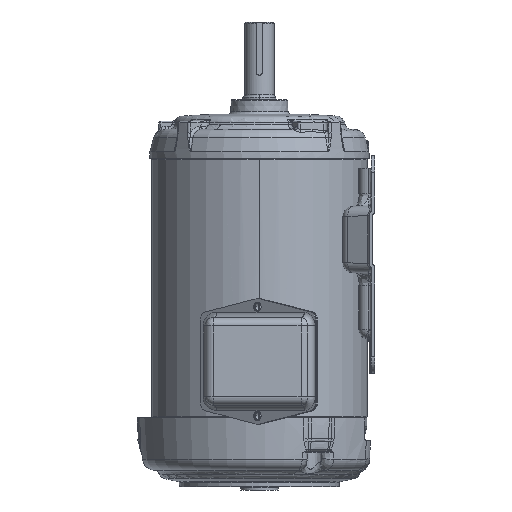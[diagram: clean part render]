
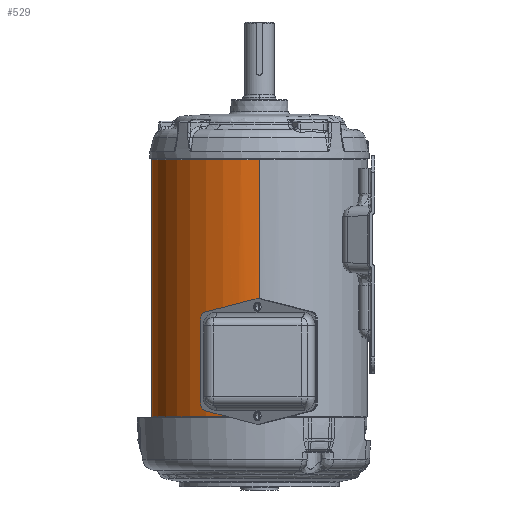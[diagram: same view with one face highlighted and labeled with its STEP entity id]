
A CAD part, left-side view. The second image highlights one B-rep face of the part: STEP entity #529.
In plain terms, the highlighted cylindrical face has radius 81.783 mm (diameter 163.566 mm), a partial arc.
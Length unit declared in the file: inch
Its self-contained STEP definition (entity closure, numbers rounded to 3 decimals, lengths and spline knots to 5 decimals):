
#2=CARTESIAN_POINT('',(-3.1702,0.563,-2.2635));
#3=CARTESIAN_POINT('',(-3.16835,0.57341,-2.2635));
#4=CARTESIAN_POINT('',(-3.16478,0.5929,-2.25999));
#5=CARTESIAN_POINT('',(-3.15962,0.61977,-2.24467));
#6=CARTESIAN_POINT('',(-3.15566,0.63952,-2.22098));
#7=CARTESIAN_POINT('',(-3.15353,0.64988,-2.19247));
#8=CARTESIAN_POINT('',(-3.15351,0.64997,-2.16191));
#9=CARTESIAN_POINT('',(-3.15564,0.63961,-2.13322));
#10=CARTESIAN_POINT('',(-3.15954,0.6202,-2.10968));
#11=CARTESIAN_POINT('',(-3.16476,0.59302,-2.09401));
#12=CARTESIAN_POINT('',(-3.16834,0.57346,-2.0905));
#13=CARTESIAN_POINT('',(-3.1702,0.563,-2.0905));
#15=CARTESIAN_POINT('',(-3.1702,0.563,-2.0905));
#16=CARTESIAN_POINT('',(-3.17204,0.55261,-2.0905));
#17=CARTESIAN_POINT('',(-3.1754,0.53315,-2.09401));
#18=CARTESIAN_POINT('',(-3.17977,0.50633,-2.10925));
#19=CARTESIAN_POINT('',(-3.18284,0.48655,-2.1329));
#20=CARTESIAN_POINT('',(-3.1844,0.47612,-2.16147));
#21=CARTESIAN_POINT('',(-3.18442,0.47603,-2.19216));
#22=CARTESIAN_POINT('',(-3.18285,0.48646,-2.22091));
#23=CARTESIAN_POINT('',(-3.17983,0.50592,-2.24442));
#24=CARTESIAN_POINT('',(-3.17541,0.53305,-2.26001));
#25=CARTESIAN_POINT('',(-3.17205,0.55257,-2.2635));
#26=CARTESIAN_POINT('',(-3.1702,0.563,-2.2635));
#28=DIRECTION('',(0.,0.,1.));
#29=VECTOR('',#28,7.688);
#30=CARTESIAN_POINT('',(3.2198,0.,-3.833));
#31=LINE('',#30,#29);
#32=CARTESIAN_POINT('',(0.,0.,3.855));
#33=DIRECTION('',(0.,0.,1.));
#34=DIRECTION('',(1.,0.,0.));
#35=AXIS2_PLACEMENT_3D('',#32,#33,#34);
#37=CARTESIAN_POINT('',(0.,0.,3.855));
#38=DIRECTION('',(0.,0.,1.));
#39=DIRECTION('',(0.,1.,0.));
#40=AXIS2_PLACEMENT_3D('',#37,#38,#39);
#42=CARTESIAN_POINT('',(0.,0.,-1.767));
#43=DIRECTION('',(0.,0.,1.));
#44=DIRECTION('',(-0.996,0.089,0.));
#45=AXIS2_PLACEMENT_3D('',#42,#43,#44);
#47=CARTESIAN_POINT('',(-3.19359,0.41,-1.892));
#48=CARTESIAN_POINT('',(-3.19359,0.41,-1.88251));
#49=CARTESIAN_POINT('',(-3.19386,0.40789,-1.86405));
#50=CARTESIAN_POINT('',(-3.19504,0.3986,-1.83735));
#51=CARTESIAN_POINT('',(-3.19689,0.38353,-1.81338));
#52=CARTESIAN_POINT('',(-3.19923,0.36356,-1.79342));
#53=CARTESIAN_POINT('',(-3.20187,0.33969,-1.77842));
#54=CARTESIAN_POINT('',(-3.20459,0.31296,-1.7691));
#55=CARTESIAN_POINT('',(-3.20632,0.2945,-1.767));
#56=CARTESIAN_POINT('',(-3.20716,0.285,-1.767));
#58=DIRECTION('',(0.,0.,1.));
#59=VECTOR('',#58,0.95);
#60=CARTESIAN_POINT('',(-3.19359,0.41,-2.842));
#61=LINE('',#60,#59);
#62=CARTESIAN_POINT('',(-3.20716,0.285,-2.967));
#63=CARTESIAN_POINT('',(-3.20632,0.29448,-2.967));
#64=CARTESIAN_POINT('',(-3.2046,0.31291,-2.9649));
#65=CARTESIAN_POINT('',(-3.20188,0.33955,-2.95565));
#66=CARTESIAN_POINT('',(-3.19924,0.36349,-2.94064));
#67=CARTESIAN_POINT('',(-3.1969,0.38347,-2.92069));
#68=CARTESIAN_POINT('',(-3.19505,0.39853,-2.8968));
#69=CARTESIAN_POINT('',(-3.19386,0.40789,-2.87001));
#70=CARTESIAN_POINT('',(-3.19359,0.41,-2.85151));
#71=CARTESIAN_POINT('',(-3.19359,0.41,-2.842));
#73=CARTESIAN_POINT('',(0.,0.,-2.967));
#74=DIRECTION('',(0.,0.,1.));
#75=DIRECTION('',(-0.996,0.089,0.));
#76=AXIS2_PLACEMENT_3D('',#73,#74,#75);
#78=CARTESIAN_POINT('',(0.,0.,-3.833));
#79=DIRECTION('',(0.,0.,1.));
#80=DIRECTION('',(0.,1.,0.));
#81=AXIS2_PLACEMENT_3D('',#78,#79,#80);
#83=CARTESIAN_POINT('',(0.,0.,-3.833));
#84=DIRECTION('',(0.,0.,1.));
#85=DIRECTION('',(1.,0.,0.));
#86=AXIS2_PLACEMENT_3D('',#83,#84,#85);
#230=DIRECTION('',(0.,0.,1.));
#231=VECTOR('',#230,0.866);
#232=CARTESIAN_POINT('',(-3.2198,0.,-3.833));
#233=LINE('',#232,#231);
#270=DIRECTION('',(0.,0.,1.));
#271=VECTOR('',#270,5.622);
#272=CARTESIAN_POINT('',(-3.2198,0.,-1.767));
#273=LINE('',#272,#271);
#418=VERTEX_POINT('',#2);
#419=VERTEX_POINT('',#13);
#420=CARTESIAN_POINT('',(-3.20716,0.285,-1.767));
#421=CARTESIAN_POINT('',(-3.2198,0.,-1.767));
#422=VERTEX_POINT('',#420);
#423=VERTEX_POINT('',#421);
#424=CARTESIAN_POINT('',(-3.20716,0.285,-2.967));
#425=CARTESIAN_POINT('',(-3.2198,0.,-2.967));
#426=VERTEX_POINT('',#424);
#427=VERTEX_POINT('',#425);
#428=VERTEX_POINT('',#71);
#429=CARTESIAN_POINT('',(-3.19359,0.41,-1.892));
#430=VERTEX_POINT('',#429);
#468=CARTESIAN_POINT('',(3.2198,0.,-3.833));
#469=CARTESIAN_POINT('',(3.2198,0.,3.855));
#470=VERTEX_POINT('',#468);
#471=VERTEX_POINT('',#469);
#472=CARTESIAN_POINT('',(-3.2198,0.,-3.833));
#473=VERTEX_POINT('',#472);
#474=CARTESIAN_POINT('',(-3.2198,0.,3.855));
#475=VERTEX_POINT('',#474);
#484=CARTESIAN_POINT('',(0.,3.2198,3.855));
#485=VERTEX_POINT('',#484);
#486=CARTESIAN_POINT('',(0.,3.2198,-3.833));
#487=VERTEX_POINT('',#486);
#492=CARTESIAN_POINT('',(0.,0.,-3.927));
#493=DIRECTION('',(0.,0.,1.));
#494=DIRECTION('',(1.,0.,0.));
#495=AXIS2_PLACEMENT_3D('',#492,#493,#494);
#496=CYLINDRICAL_SURFACE('',#495,3.2198);
#498=ORIENTED_EDGE('',*,*,#497,.T.);
#500=ORIENTED_EDGE('',*,*,#499,.T.);
#502=ORIENTED_EDGE('',*,*,#501,.T.);
#504=ORIENTED_EDGE('',*,*,#503,.F.);
#506=ORIENTED_EDGE('',*,*,#505,.F.);
#508=ORIENTED_EDGE('',*,*,#507,.F.);
#510=ORIENTED_EDGE('',*,*,#509,.F.);
#512=ORIENTED_EDGE('',*,*,#511,.F.);
#514=ORIENTED_EDGE('',*,*,#513,.T.);
#516=ORIENTED_EDGE('',*,*,#515,.F.);
#518=ORIENTED_EDGE('',*,*,#517,.F.);
#520=ORIENTED_EDGE('',*,*,#519,.F.);
#521=EDGE_LOOP('',(#498,#500,#502,#504,#506,#508,#510,#512,#514,#516,#518,
#520));
#522=FACE_OUTER_BOUND('',#521,.F.);
#524=ORIENTED_EDGE('',*,*,#523,.F.);
#526=ORIENTED_EDGE('',*,*,#525,.F.);
#527=EDGE_LOOP('',(#524,#526));
#528=FACE_BOUND('',#527,.F.);
#529=ADVANCED_FACE('',(#522,#528),#496,.T.);
#14=B_SPLINE_CURVE_WITH_KNOTS('',3,(#2,#3,#4,#5,#6,#7,#8,#9,#10,#11,#12,#13),
.UNSPECIFIED.,.F.,.F.,(4,1,1,1,1,1,1,1,1,4),(0.,0.11111,
0.22222,0.33333,0.44444,0.55556,
0.66667,0.77778,0.88889,1.),.UNSPECIFIED.);
#27=B_SPLINE_CURVE_WITH_KNOTS('',3,(#15,#16,#17,#18,#19,#20,#21,#22,#23,#24,#25,
#26),.UNSPECIFIED.,.F.,.F.,(4,1,1,1,1,1,1,1,1,4),(0.,0.11111,
0.22222,0.33333,0.44444,0.55556,
0.66667,0.77778,0.88889,1.),.UNSPECIFIED.);
#36=CIRCLE('',#35,3.2198);
#41=CIRCLE('',#40,3.2198);
#46=CIRCLE('',#45,3.2198);
#57=B_SPLINE_CURVE_WITH_KNOTS('',3,(#47,#48,#49,#50,#51,#52,#53,#54,#55,#56),
.UNSPECIFIED.,.F.,.F.,(4,1,1,1,1,1,1,4),(0.,0.14286,
0.28571,0.42857,0.57143,0.71429,
0.85714,1.),.UNSPECIFIED.);
#72=B_SPLINE_CURVE_WITH_KNOTS('',3,(#62,#63,#64,#65,#66,#67,#68,#69,#70,#71),
.UNSPECIFIED.,.F.,.F.,(4,1,1,1,1,1,1,4),(0.,0.14286,
0.28571,0.42857,0.57143,0.71429,
0.85714,1.),.UNSPECIFIED.);
#77=CIRCLE('',#76,3.2198);
#82=CIRCLE('',#81,3.2198);
#87=CIRCLE('',#86,3.2198);
#497=EDGE_CURVE('',#470,#471,#31,.T.);
#499=EDGE_CURVE('',#471,#485,#36,.T.);
#501=EDGE_CURVE('',#485,#475,#41,.T.);
#503=EDGE_CURVE('',#423,#475,#273,.T.);
#505=EDGE_CURVE('',#422,#423,#46,.T.);
#507=EDGE_CURVE('',#430,#422,#57,.T.);
#509=EDGE_CURVE('',#428,#430,#61,.T.);
#511=EDGE_CURVE('',#426,#428,#72,.T.);
#513=EDGE_CURVE('',#426,#427,#77,.T.);
#515=EDGE_CURVE('',#473,#427,#233,.T.);
#517=EDGE_CURVE('',#487,#473,#82,.T.);
#519=EDGE_CURVE('',#470,#487,#87,.T.);
#523=EDGE_CURVE('',#418,#419,#14,.T.);
#525=EDGE_CURVE('',#419,#418,#27,.T.);
